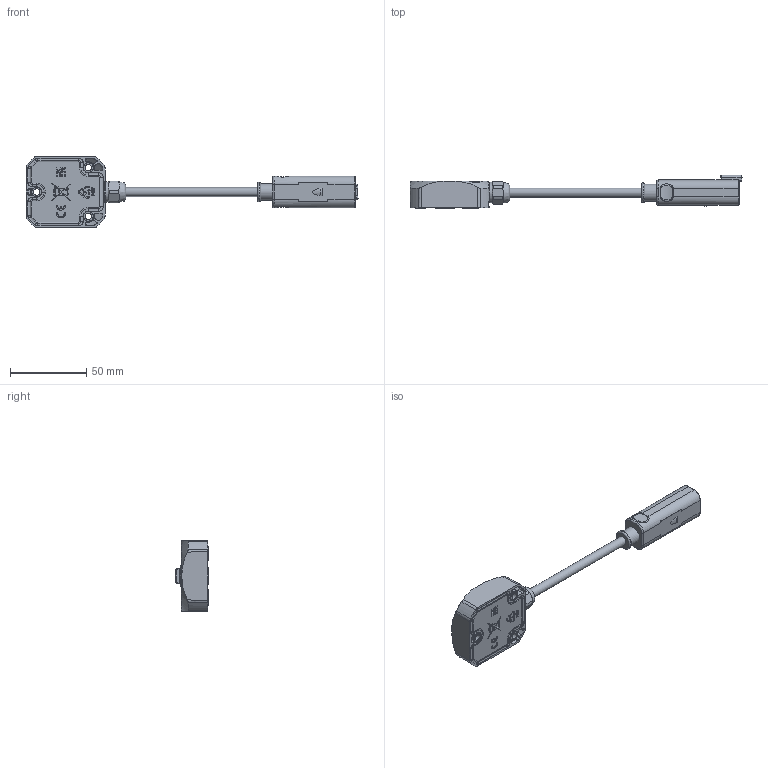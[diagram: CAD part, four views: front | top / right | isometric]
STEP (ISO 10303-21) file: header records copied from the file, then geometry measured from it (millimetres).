
FILE_DESCRIPTION (( 'STEP AP214' ), '1' );
FILE_NAME ('drawing-1p3-47x52-p4.STEP', '2025-03-06T15:06:59', ( '' ), ( '' ), 'SwSTEP 2.0', 'SolidWorks 2024', '' );
FILE_SCHEMA (( 'AUTOMOTIVE_DESIGN' ));
Length unit declared in the file: millimetre
Products named in the file (1): drawing-1p3-47x52-p4
Bounding box: 218.37 x 21.89 x 46.98 mm (x, y, z)
Volume: 55532.3 mm3; surface area: 17964.5 mm2
Topology: 1 solids, 1 shells, 925 faces, 2443 edges, 1574 vertices
Faces by surface type: plane 514, bspline 198, cylinder 95, cone 86, torus 24, sphere 8
Full cylindrical faces by diameter (mm): 1 x4, 4.2 x1, 4.3 x2, 6 x1, 11 x1, 12.1 x1, 13.6 x2
Entity records: 45484 total; most frequent: CARTESIAN_POINT 15420, ORIENTED_EDGE 4742, DIRECTION 3009, EDGE_CURVE 2371, VERTEX_POINT 1543, LINE 1061, VECTOR 1061, EDGE_LOOP 1040
